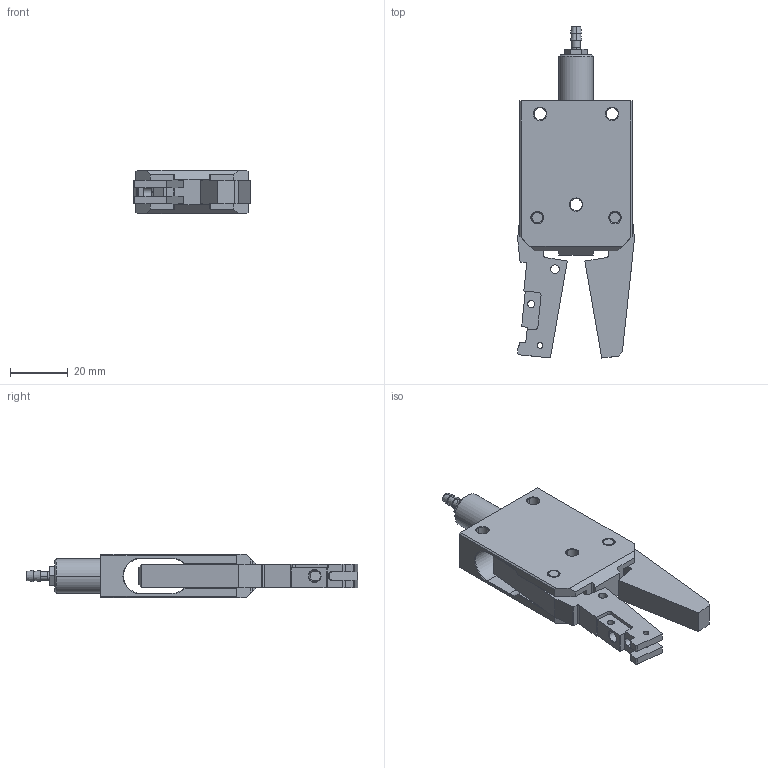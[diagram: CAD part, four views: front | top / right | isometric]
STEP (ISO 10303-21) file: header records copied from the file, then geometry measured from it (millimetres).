
FILE_DESCRIPTION (( 'STEP AP214' ), '1' );
FILE_NAME ('GRL12A-C.STEP', '2023-03-08T01:05:25', ( '微软用户' ), ( '微软中国' ), 'SwSTEP 2.0', 'SolidWorks 2018', '' );
FILE_SCHEMA (( 'AUTOMOTIVE_DESIGN' ));
Length unit declared in the file: millimetre
Products named in the file (2): GRL12A-C
Bounding box: 40.61 x 115.22 x 15 mm (x, y, z)
Volume: 28854.3 mm3; surface area: 17427.6 mm2
Topology: 6 solids, 6 shells, 242 faces, 641 edges, 414 vertices
Faces by surface type: plane 120, cylinder 68, cone 52, bspline 2
Entity records: 7686 total; most frequent: CARTESIAN_POINT 1368, DIRECTION 1326, ORIENTED_EDGE 1282, EDGE_CURVE 641, AXIS2_PLACEMENT_3D 458, VERTEX_POINT 414, LINE 410, VECTOR 410
